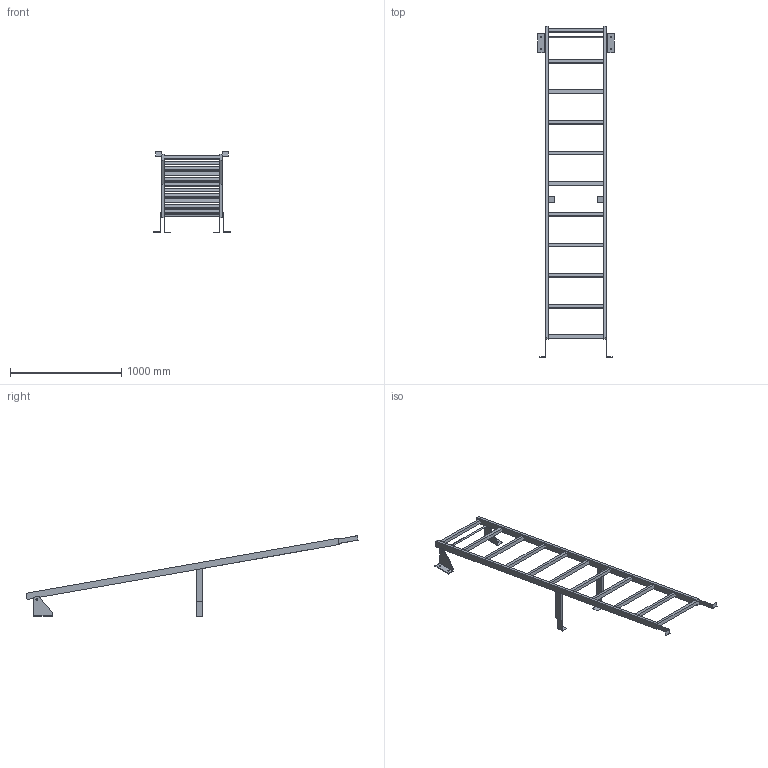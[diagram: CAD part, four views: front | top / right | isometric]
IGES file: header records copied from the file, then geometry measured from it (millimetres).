
Start section:  PTC IGES file: 52309767.igs
Global section: file name: 52309767.igs; native system: Creo Parametric by PTC Inc.; preprocessor: 2022162; author: wep; organization: Unknown; date: 20241017.090139; units: millimetre
Bounding box: 690 x 2986.48 x 724.03 mm (x, y, z)
Surface area: 1956994.2 mm2 (no closed solid volume)
Topology: 0 solids, 0 shells, 128 faces, 672 edges, 672 vertices
Faces by surface type: bspline 112, revolution 16
